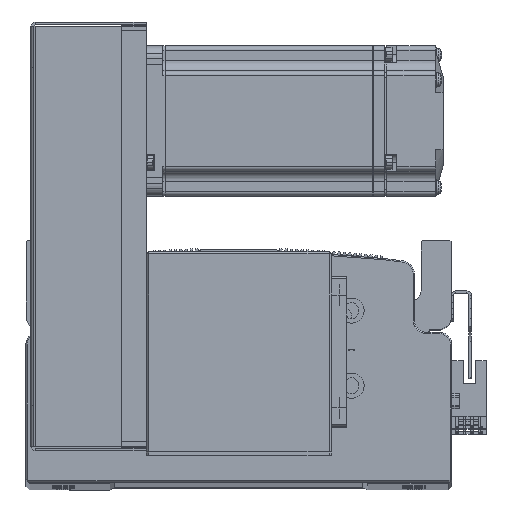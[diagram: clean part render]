
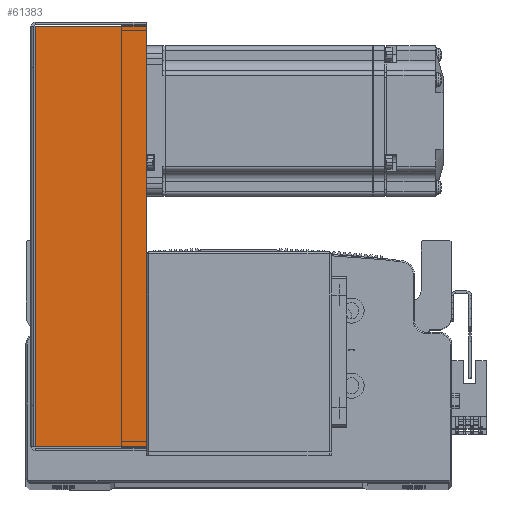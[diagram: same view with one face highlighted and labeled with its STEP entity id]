
A CAD part, top view. The second image highlights one B-rep face of the part: STEP entity #61383.
In plain terms, the highlighted planar face has unit normal (0, 0, 1) as drawn and (0, 0, -1) by its records, which use the part's own axes.
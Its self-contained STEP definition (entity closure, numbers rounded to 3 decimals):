
#3314 = EDGE_LOOP ( 'NONE', ( #22881, #22867, #22892, #22787 ) ) ;
#5825 = FACE_OUTER_BOUND ( 'NONE', #3314, .T. ) ;
#7604 = CARTESIAN_POINT ( 'NONE',  ( 0., 0., -40.5 ) ) ;
#7647 = DIRECTION ( 'NONE',  ( 0., -1., 0. ) ) ;
#7648 = PLANE ( 'NONE',  #55608 ) ;
#7669 = DIRECTION ( 'NONE',  ( 0., 0., 1. ) ) ;
#22787 = ORIENTED_EDGE ( 'NONE', *, *, #77524, .F. ) ;
#22867 = ORIENTED_EDGE ( 'NONE', *, *, #77557, .T. ) ;
#22881 = ORIENTED_EDGE ( 'NONE', *, *, #77564, .F. ) ;
#22892 = ORIENTED_EDGE ( 'NONE', *, *, #77529, .T. ) ;
#43171 = CARTESIAN_POINT ( 'NONE',  ( 83.793, 0.737, -40.5 ) ) ;
#43208 = CARTESIAN_POINT ( 'NONE',  ( -83.793, 0.737, -40.5 ) ) ;
#43224 = CARTESIAN_POINT ( 'NONE',  ( -83.793, 45., -40.5 ) ) ;
#43269 = CARTESIAN_POINT ( 'NONE',  ( 83.793, 45., -40.5 ) ) ;
#43505 = CARTESIAN_POINT ( 'NONE',  ( 83.793, 0., -40.5 ) ) ;
#43508 = CARTESIAN_POINT ( 'NONE',  ( 84.5, 45., -40.5 ) ) ;
#43512 = DIRECTION ( 'NONE',  ( 0., 1., 0. ) ) ;
#43563 = DIRECTION ( 'NONE',  ( 1., 0., 0. ) ) ;
#43599 = CARTESIAN_POINT ( 'NONE',  ( 0., 0.737, -40.5 ) ) ;
#43603 = CARTESIAN_POINT ( 'NONE',  ( -83.793, 0., -40.5 ) ) ;
#43612 = DIRECTION ( 'NONE',  ( 0., 1., 0. ) ) ;
#43613 = DIRECTION ( 'NONE',  ( 1., 0., 0. ) ) ;
#44146 = LINE ( 'NONE', #43505, #44174 ) ;
#44148 = LINE ( 'NONE', #43508, #44171 ) ;
#44171 = VECTOR ( 'NONE', #43563, 1000. ) ;
#44174 = VECTOR ( 'NONE', #43512, 1000. ) ;
#44267 = VECTOR ( 'NONE', #43613, 1000. ) ;
#44311 = LINE ( 'NONE', #43603, #44347 ) ;
#44347 = VECTOR ( 'NONE', #43612, 1000. ) ;
#44376 = LINE ( 'NONE', #43599, #44267 ) ;
#55608 = AXIS2_PLACEMENT_3D ( 'NONE', #7604, #7669, #7647 ) ;
#61383 = ADVANCED_FACE ( 'NONE', ( #5825 ), #7648, .F. ) ;
#77276 = VERTEX_POINT ( 'NONE', #43208 ) ;
#77300 = VERTEX_POINT ( 'NONE', #43224 ) ;
#77301 = VERTEX_POINT ( 'NONE', #43171 ) ;
#77323 = VERTEX_POINT ( 'NONE', #43269 ) ;
#77524 = EDGE_CURVE ( 'NONE', #77301, #77323, #44146, .T. ) ;
#77529 = EDGE_CURVE ( 'NONE', #77300, #77323, #44148, .T. ) ;
#77557 = EDGE_CURVE ( 'NONE', #77276, #77300, #44311, .T. ) ;
#77564 = EDGE_CURVE ( 'NONE', #77276, #77301, #44376, .T. ) ;
